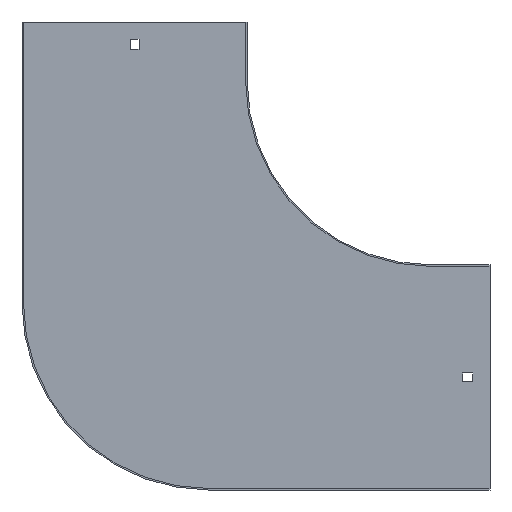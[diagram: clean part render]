
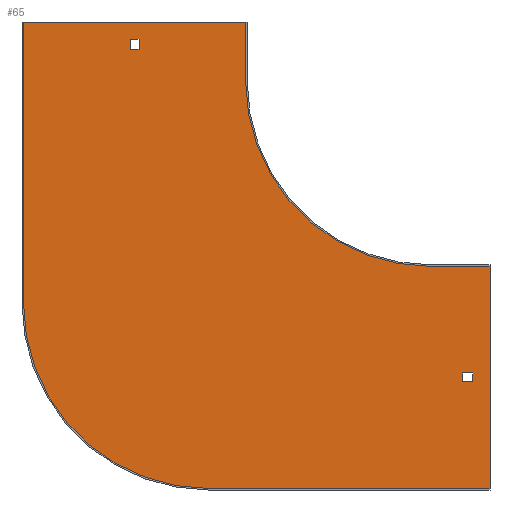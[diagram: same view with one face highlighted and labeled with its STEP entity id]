
A CAD part, front view. The second image highlights one B-rep face of the part: STEP entity #65.
In plain terms, the highlighted planar face has unit normal (0, -1, 0).
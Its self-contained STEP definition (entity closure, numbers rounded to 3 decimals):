
#9 = EDGE_CURVE ( 'NONE', #489, #291, #719, .T. ) ;
#22 = VERTEX_POINT ( 'NONE', #587 ) ;
#28 = LINE ( 'NONE', #147, #663 ) ;
#36 = EDGE_CURVE ( 'NONE', #365, #722, #222, .T. ) ;
#38 = ORIENTED_EDGE ( 'NONE', *, *, #226, .F. ) ;
#49 = EDGE_LOOP ( 'NONE', ( #566, #92, #298, #471 ) ) ;
#58 = EDGE_CURVE ( 'NONE', #215, #489, #780, .T. ) ;
#60 = VECTOR ( 'NONE', #408, 1000. ) ;
#61 = FACE_BOUND ( 'NONE', #757, .T. ) ;
#64 = CARTESIAN_POINT ( 'NONE',  ( -125., -1., 40. ) ) ;
#65 = ADVANCED_FACE ( 'NONE', ( #519, #450, #61 ), #655, .T. ) ;
#74 = CARTESIAN_POINT ( 'NONE',  ( 28.5, -1., -203. ) ) ;
#75 = VECTOR ( 'NONE', #807, 1000. ) ;
#77 = EDGE_CURVE ( 'NONE', #115, #215, #601, .T. ) ;
#92 = ORIENTED_EDGE ( 'NONE', *, *, #77, .F. ) ;
#93 = ORIENTED_EDGE ( 'NONE', *, *, #685, .T. ) ;
#94 = DIRECTION ( 'NONE',  ( 1., 0., 0. ) ) ;
#95 = EDGE_CURVE ( 'NONE', #22, #365, #255, .T. ) ;
#99 = CARTESIAN_POINT ( 'NONE',  ( -203., -1., 28.5 ) ) ;
#101 = CARTESIAN_POINT ( 'NONE',  ( 0., -1., 28.5 ) ) ;
#115 = VERTEX_POINT ( 'NONE', #74 ) ;
#121 = CARTESIAN_POINT ( 'NONE',  ( 0., -1., 0. ) ) ;
#133 = CARTESIAN_POINT ( 'NONE',  ( 28.5, -1., 0. ) ) ;
#145 = EDGE_CURVE ( 'NONE', #232, #294, #323, .T. ) ;
#146 = ORIENTED_EDGE ( 'NONE', *, *, #362, .T. ) ;
#147 = CARTESIAN_POINT ( 'NONE',  ( -197., -1., 0. ) ) ;
#174 = EDGE_CURVE ( 'NONE', #770, #356, #468, .T. ) ;
#176 = CARTESIAN_POINT ( 'NONE',  ( 0., -1., -197. ) ) ;
#185 = EDGE_CURVE ( 'NONE', #563, #310, #333, .T. ) ;
#194 = CIRCLE ( 'NONE', #691, 125. ) ;
#215 = VERTEX_POINT ( 'NONE', #532 ) ;
#218 = ORIENTED_EDGE ( 'NONE', *, *, #404, .F. ) ;
#222 = CIRCLE ( 'NONE', #388, 125. ) ;
#226 = EDGE_CURVE ( 'NONE', #722, #424, #730, .T. ) ;
#232 = VERTEX_POINT ( 'NONE', #818 ) ;
#244 = CARTESIAN_POINT ( 'NONE',  ( -276., -1., 40. ) ) ;
#252 = ORIENTED_EDGE ( 'NONE', *, *, #95, .F. ) ;
#255 = LINE ( 'NONE', #64, #75 ) ;
#261 = DIRECTION ( 'NONE',  ( 0., 0., -1. ) ) ;
#267 = ORIENTED_EDGE ( 'NONE', *, *, #145, .F. ) ;
#272 = DIRECTION ( 'NONE',  ( 0., 0., 1. ) ) ;
#291 = VERTEX_POINT ( 'NONE', #625 ) ;
#292 = LINE ( 'NONE', #244, #318 ) ;
#294 = VERTEX_POINT ( 'NONE', #428 ) ;
#298 = ORIENTED_EDGE ( 'NONE', *, *, #799, .F. ) ;
#308 = DIRECTION ( 'NONE',  ( 0., -1., 0. ) ) ;
#310 = VERTEX_POINT ( 'NONE', #553 ) ;
#315 = DIRECTION ( 'NONE',  ( -1., 0., 0. ) ) ;
#318 = VECTOR ( 'NONE', #445, 1000. ) ;
#323 = LINE ( 'NONE', #811, #359 ) ;
#327 = CARTESIAN_POINT ( 'NONE',  ( 0., -1., 21.5 ) ) ;
#333 = LINE ( 'NONE', #478, #346 ) ;
#338 = DIRECTION ( 'NONE',  ( 0., 0., 1. ) ) ;
#346 = VECTOR ( 'NONE', #338, 1000. ) ;
#356 = VERTEX_POINT ( 'NONE', #99 ) ;
#359 = VECTOR ( 'NONE', #527, 1000. ) ;
#362 = EDGE_CURVE ( 'NONE', #517, #522, #28, .T. ) ;
#365 = VERTEX_POINT ( 'NONE', #620 ) ;
#378 = CARTESIAN_POINT ( 'NONE',  ( 0., -1., -125. ) ) ;
#388 = AXIS2_PLACEMENT_3D ( 'NONE', #121, #308, #583 ) ;
#393 = VECTOR ( 'NONE', #609, 1000. ) ;
#396 = LINE ( 'NONE', #802, #393 ) ;
#399 = EDGE_LOOP ( 'NONE', ( #218, #507, #453, #267, #443, #38, #544, #252 ) ) ;
#404 = EDGE_CURVE ( 'NONE', #310, #22, #292, .T. ) ;
#408 = DIRECTION ( 'NONE',  ( 0., 0., 1. ) ) ;
#424 = VERTEX_POINT ( 'NONE', #788 ) ;
#428 = CARTESIAN_POINT ( 'NONE',  ( -150., -1., -275. ) ) ;
#443 = ORIENTED_EDGE ( 'NONE', *, *, #565, .F. ) ;
#445 = DIRECTION ( 'NONE',  ( 1., 0., 0. ) ) ;
#450 = FACE_OUTER_BOUND ( 'NONE', #399, .T. ) ;
#452 = DIRECTION ( 'NONE',  ( 0., 0., -1. ) ) ;
#453 = ORIENTED_EDGE ( 'NONE', *, *, #654, .F. ) ;
#458 = DIRECTION ( 'NONE',  ( 0., -1., 0. ) ) ;
#460 = DIRECTION ( 'NONE',  ( -1., 0., 0. ) ) ;
#465 = LINE ( 'NONE', #475, #769 ) ;
#468 = LINE ( 'NONE', #735, #618 ) ;
#471 = ORIENTED_EDGE ( 'NONE', *, *, #9, .F. ) ;
#475 = CARTESIAN_POINT ( 'NONE',  ( 40., -1., -124. ) ) ;
#478 = CARTESIAN_POINT ( 'NONE',  ( -275., -1., -150. ) ) ;
#489 = VERTEX_POINT ( 'NONE', #598 ) ;
#495 = DIRECTION ( 'NONE',  ( 0., 0., -1. ) ) ;
#507 = ORIENTED_EDGE ( 'NONE', *, *, #185, .F. ) ;
#510 = LINE ( 'NONE', #101, #562 ) ;
#517 = VERTEX_POINT ( 'NONE', #729 ) ;
#519 = FACE_BOUND ( 'NONE', #49, .T. ) ;
#522 = VERTEX_POINT ( 'NONE', #611 ) ;
#527 = DIRECTION ( 'NONE',  ( -1., 0., 0. ) ) ;
#530 = CARTESIAN_POINT ( 'NONE',  ( -275., -1., -150. ) ) ;
#532 = CARTESIAN_POINT ( 'NONE',  ( 28.5, -1., -197. ) ) ;
#544 = ORIENTED_EDGE ( 'NONE', *, *, #36, .F. ) ;
#553 = CARTESIAN_POINT ( 'NONE',  ( -275., -1., 40. ) ) ;
#562 = VECTOR ( 'NONE', #652, 1000. ) ;
#563 = VERTEX_POINT ( 'NONE', #530 ) ;
#565 = EDGE_CURVE ( 'NONE', #424, #232, #465, .T. ) ;
#566 = ORIENTED_EDGE ( 'NONE', *, *, #58, .F. ) ;
#573 = VECTOR ( 'NONE', #94, 1000. ) ;
#583 = DIRECTION ( 'NONE',  ( 0., 0., -1. ) ) ;
#585 = CARTESIAN_POINT ( 'NONE',  ( -150., -1., -150. ) ) ;
#587 = CARTESIAN_POINT ( 'NONE',  ( -125., -1., 40. ) ) ;
#593 = CARTESIAN_POINT ( 'NONE',  ( 0., -1., 0. ) ) ;
#597 = DIRECTION ( 'NONE',  ( 0., 0., -1. ) ) ;
#598 = CARTESIAN_POINT ( 'NONE',  ( 21.5, -1., -197. ) ) ;
#601 = LINE ( 'NONE', #133, #60 ) ;
#609 = DIRECTION ( 'NONE',  ( 1., 0., 0. ) ) ;
#611 = CARTESIAN_POINT ( 'NONE',  ( -197., -1., 21.5 ) ) ;
#618 = VECTOR ( 'NONE', #272, 1000. ) ;
#620 = CARTESIAN_POINT ( 'NONE',  ( -125., -1., 0. ) ) ;
#625 = CARTESIAN_POINT ( 'NONE',  ( 21.5, -1., -203. ) ) ;
#630 = CARTESIAN_POINT ( 'NONE',  ( 0., -1., -125. ) ) ;
#631 = VECTOR ( 'NONE', #597, 1000. ) ;
#652 = DIRECTION ( 'NONE',  ( 1., 0., 0. ) ) ;
#654 = EDGE_CURVE ( 'NONE', #294, #563, #194, .T. ) ;
#655 = PLANE ( 'NONE',  #767 ) ;
#663 = VECTOR ( 'NONE', #495, 1000. ) ;
#685 = EDGE_CURVE ( 'NONE', #356, #517, #510, .T. ) ;
#691 = AXIS2_PLACEMENT_3D ( 'NONE', #585, #778, #452 ) ;
#719 = LINE ( 'NONE', #860, #631 ) ;
#722 = VERTEX_POINT ( 'NONE', #378 ) ;
#729 = CARTESIAN_POINT ( 'NONE',  ( -197., -1., 28.5 ) ) ;
#730 = LINE ( 'NONE', #630, #573 ) ;
#735 = CARTESIAN_POINT ( 'NONE',  ( -203., -1., 0. ) ) ;
#744 = VECTOR ( 'NONE', #460, 1000. ) ;
#757 = EDGE_LOOP ( 'NONE', ( #93, #146, #758, #775 ) ) ;
#758 = ORIENTED_EDGE ( 'NONE', *, *, #760, .T. ) ;
#760 = EDGE_CURVE ( 'NONE', #522, #770, #806, .T. ) ;
#767 = AXIS2_PLACEMENT_3D ( 'NONE', #593, #458, #790 ) ;
#769 = VECTOR ( 'NONE', #261, 1000. ) ;
#770 = VERTEX_POINT ( 'NONE', #862 ) ;
#775 = ORIENTED_EDGE ( 'NONE', *, *, #174, .T. ) ;
#778 = DIRECTION ( 'NONE',  ( 0., 1., 0. ) ) ;
#780 = LINE ( 'NONE', #176, #797 ) ;
#788 = CARTESIAN_POINT ( 'NONE',  ( 40., -1., -125. ) ) ;
#790 = DIRECTION ( 'NONE',  ( 0., 0., -1. ) ) ;
#797 = VECTOR ( 'NONE', #315, 1000. ) ;
#799 = EDGE_CURVE ( 'NONE', #291, #115, #396, .T. ) ;
#802 = CARTESIAN_POINT ( 'NONE',  ( 0., -1., -203. ) ) ;
#806 = LINE ( 'NONE', #327, #744 ) ;
#807 = DIRECTION ( 'NONE',  ( 0., 0., -1. ) ) ;
#811 = CARTESIAN_POINT ( 'NONE',  ( 40., -1., -275. ) ) ;
#818 = CARTESIAN_POINT ( 'NONE',  ( 40., -1., -275. ) ) ;
#860 = CARTESIAN_POINT ( 'NONE',  ( 21.5, -1., 0. ) ) ;
#862 = CARTESIAN_POINT ( 'NONE',  ( -203., -1., 21.5 ) ) ;
